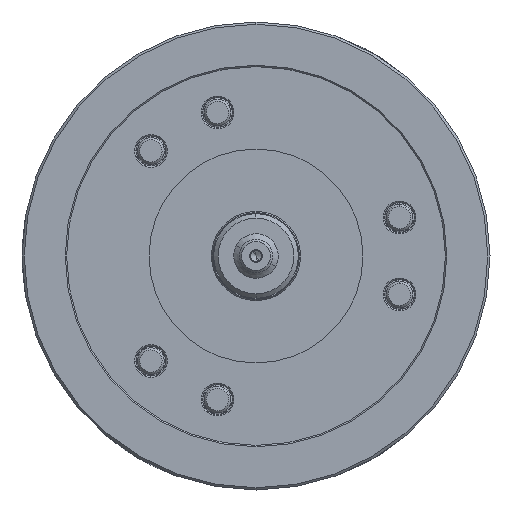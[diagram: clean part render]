
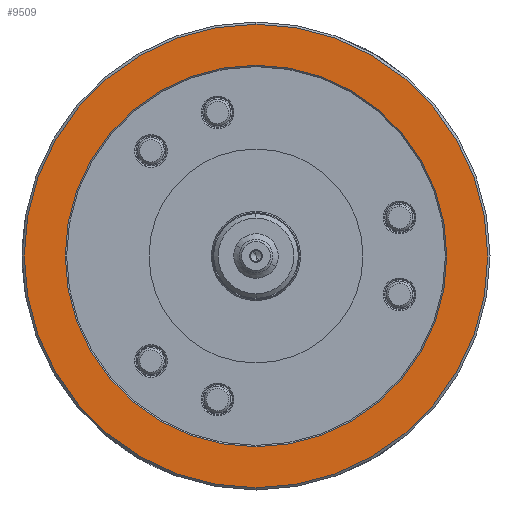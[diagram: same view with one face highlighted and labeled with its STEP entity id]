
A CAD part, left-side view. The second image highlights one B-rep face of the part: STEP entity #9509.
In plain terms, the highlighted planar face has unit normal (-1, 0, 0).
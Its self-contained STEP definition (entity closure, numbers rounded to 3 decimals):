
#516 = CARTESIAN_POINT ( 'NONE',  ( -94., 0., 0. ) ) ;
#2245 = CARTESIAN_POINT ( 'NONE',  ( -94., 0., 0. ) ) ;
#2706 = CARTESIAN_POINT ( 'NONE',  ( -94., 0., -104. ) ) ;
#3167 = CIRCLE ( 'NONE', #18838, 85.6 ) ;
#3894 = FACE_BOUND ( 'NONE', #15381, .T. ) ;
#4228 = DIRECTION ( 'NONE',  ( 0., 0., -1. ) ) ;
#5811 = DIRECTION ( 'NONE',  ( 1., 0., 0. ) ) ;
#5944 = DIRECTION ( 'NONE',  ( 0., 0., -1. ) ) ;
#6218 = VERTEX_POINT ( 'NONE', #10688 ) ;
#9018 = CARTESIAN_POINT ( 'NONE',  ( -94., 0., 85.6 ) ) ;
#9023 = ORIENTED_EDGE ( 'NONE', *, *, #20640, .T. ) ;
#9509 = ADVANCED_FACE ( 'NONE', ( #31974, #3894 ), #20535, .F. ) ;
#10601 = CARTESIAN_POINT ( 'NONE',  ( -94., 0., 0. ) ) ;
#10688 = CARTESIAN_POINT ( 'NONE',  ( -94., 0., -85.6 ) ) ;
#11545 = CARTESIAN_POINT ( 'NONE',  ( -94., 0., 104. ) ) ;
#12634 = AXIS2_PLACEMENT_3D ( 'NONE', #10601, #36218, #14285 ) ;
#14285 = DIRECTION ( 'NONE',  ( 0., 0., -1. ) ) ;
#14482 = AXIS2_PLACEMENT_3D ( 'NONE', #27748, #5811, #31426 ) ;
#15381 = EDGE_LOOP ( 'NONE', ( #9023, #33752 ) ) ;
#17368 = ORIENTED_EDGE ( 'NONE', *, *, #46598, .F. ) ;
#17669 = AXIS2_PLACEMENT_3D ( 'NONE', #2245, #27860, #5944 ) ;
#18416 = VERTEX_POINT ( 'NONE', #9018 ) ;
#18771 = VERTEX_POINT ( 'NONE', #11545 ) ;
#18838 = AXIS2_PLACEMENT_3D ( 'NONE', #516, #26146, #4228 ) ;
#19289 = CIRCLE ( 'NONE', #14482, 104. ) ;
#20473 = CARTESIAN_POINT ( 'NONE',  ( -94., 0., 0. ) ) ;
#20535 = PLANE ( 'NONE',  #17669 ) ;
#20640 = EDGE_CURVE ( 'NONE', #18416, #6218, #46466, .T. ) ;
#24122 = DIRECTION ( 'NONE',  ( 0., 0., -1. ) ) ;
#25356 = EDGE_CURVE ( 'NONE', #6218, #18416, #3167, .T. ) ;
#26146 = DIRECTION ( 'NONE',  ( 1., 0., 0. ) ) ;
#27748 = CARTESIAN_POINT ( 'NONE',  ( -94., 0., 0. ) ) ;
#27860 = DIRECTION ( 'NONE',  ( 1., 0., 0. ) ) ;
#29115 = AXIS2_PLACEMENT_3D ( 'NONE', #20473, #46068, #24122 ) ;
#29166 = VERTEX_POINT ( 'NONE', #2706 ) ;
#30162 = EDGE_LOOP ( 'NONE', ( #17368, #45342 ) ) ;
#31426 = DIRECTION ( 'NONE',  ( 0., 0., -1. ) ) ;
#31974 = FACE_OUTER_BOUND ( 'NONE', #30162, .T. ) ;
#32371 = EDGE_CURVE ( 'NONE', #18771, #29166, #47473, .T. ) ;
#33752 = ORIENTED_EDGE ( 'NONE', *, *, #25356, .T. ) ;
#36218 = DIRECTION ( 'NONE',  ( 1., 0., 0. ) ) ;
#45342 = ORIENTED_EDGE ( 'NONE', *, *, #32371, .F. ) ;
#46068 = DIRECTION ( 'NONE',  ( 1., 0., 0. ) ) ;
#46466 = CIRCLE ( 'NONE', #12634, 85.6 ) ;
#46598 = EDGE_CURVE ( 'NONE', #29166, #18771, #19289, .T. ) ;
#47473 = CIRCLE ( 'NONE', #29115, 104. ) ;
